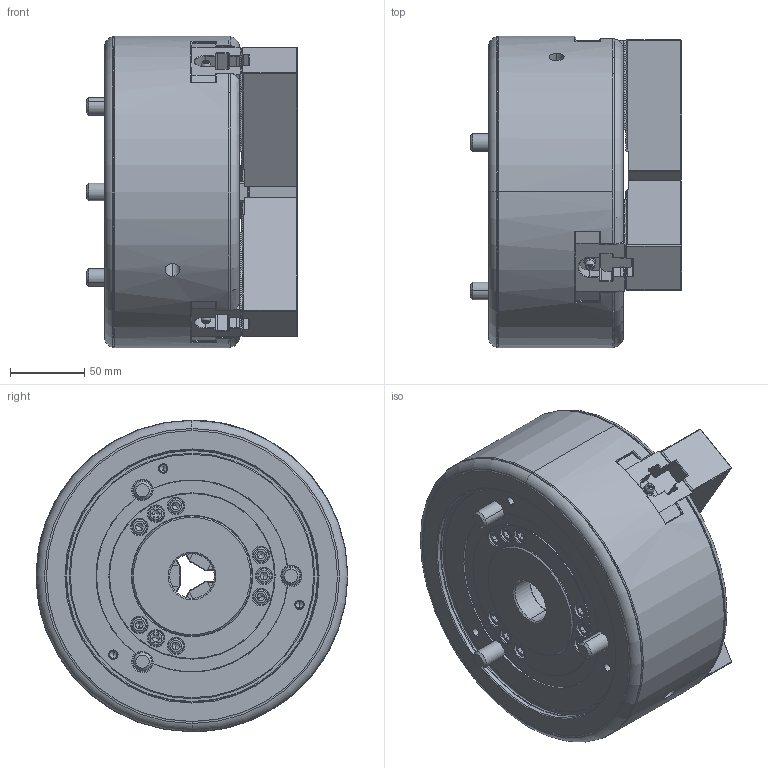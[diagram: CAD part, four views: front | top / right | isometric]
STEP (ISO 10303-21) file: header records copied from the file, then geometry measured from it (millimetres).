
FILE_DESCRIPTION (( 'STEP AP203' ), '1' );
FILE_NAME ('DEV-BR08-OUTSIDE_VIEW_OC.STEP', '2023-11-06T06:39:03', ( '' ), ( '' ), 'SwSTEP 2.0', 'SolidWorks 2022', '' );
FILE_SCHEMA (( 'CONFIG_CONTROL_DESIGN' ));
Length unit declared in the file: millimetre
Products named in the file (9): DEV-BR08-Nishi17 ドローナット(ｸﾘｯｸｽﾄｯﾌﾟ穴変更)_外観用-ﾃﾞﾌｫﾙﾄ; DEV-BR08-BODY_ASSY^DEV-BR08-Nishi18 クミタテ; DEV-BB08_カバー; DEV-BR08-Bアナツキ M12×90; DEV-BR08-Bアナツキ M12×30; DEV-BR08-Bアナツキボタン M5×10_デフォルト; DEV-BR08-OUTSIDE_VIEW_OC; DEV-BR08-Nishi15 Puls-Tナット_61P417260-1 B-208 Tﾅｯﾄ-ﾃﾞﾌｫﾙﾄ; DEV-BR08-Nishi14 SJ08B1 ソフトジョー_外観用-ﾃﾞﾌｫﾙﾄ
Assembly tree (21 placements, depth 2):
  DEV-BR08-OUTSIDE_VIEW_OC
    DEV-BR08-Nishi17 ドローナット(ｸﾘｯｸｽﾄｯﾌﾟ穴変更)_外観用-ﾃﾞﾌｫﾙﾄ
    DEV-BR08-Nishi14 SJ08B1 ソフトジョー_外観用-ﾃﾞﾌｫﾙﾄ  x3
    DEV-BR08-Nishi15 Puls-Tナット_61P417260-1 B-208 Tﾅｯﾄ-ﾃﾞﾌｫﾙﾄ  x3
    DEV-BB08_カバー
    DEV-BR08-Bアナツキ M12×30  x6
    DEV-BR08-Bアナツキボタン M5×10_デフォルト  x3
    DEV-BR08-Bアナツキ M12×90  x3
    DEV-BR08-BODY_ASSY^DEV-BR08-Nishi18 クミタテ
Bounding box: 142.2 x 210 x 210 mm (x, y, z)
Volume: 3046977.4 mm3; surface area: 349358.4 mm2
Topology: 21 solids, 37 shells, 3811 faces, 10403 edges, 6720 vertices
Faces by surface type: plane 2741, cylinder 474, cone 342, bspline 146, torus 96, sphere 12
Entity records: 94502 total; most frequent: CARTESIAN_POINT 22827, ORIENTED_EDGE 15196, DIRECTION 13732, EDGE_CURVE 7598, LINE 5690, VECTOR 5690, VERTEX_POINT 4940, AXIS2_PLACEMENT_3D 4021
